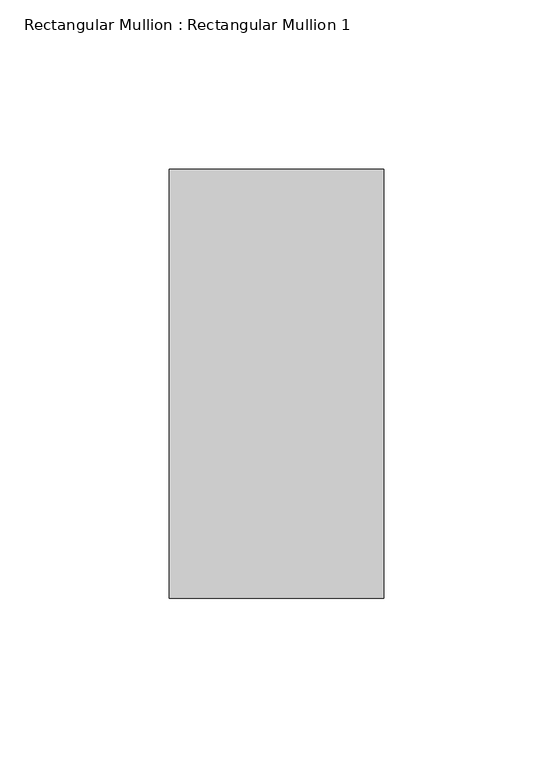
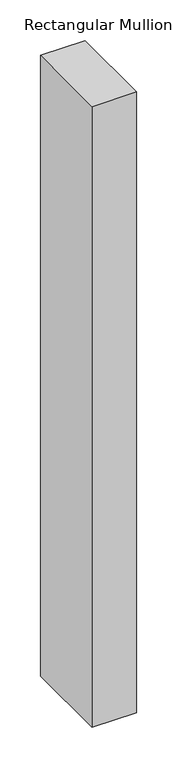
"""IFC4 building model written with IfcOpenShell, lengths in millimetres: member geometry, Rectangular Mullion : Rectangular Mullion 1."""

from ifc_helpers import new_model, si_unit, frame, origin, place, context, project, spatial, polyline, outline, extrude, source, transform, mapped, element, save


def rectangular_mullion_rectangular_mullion_1_27333ec5(model_context):
    return source(origin(), model_context, "Body", "SweptSolid", [
        extrude(outline(polyline([(0.0, 63.5), (0.0, -63.5), (-63.5, -63.5), (-63.5, 63.5), (0.0, 63.5)])), frame((0.0, 0.0, -934.5083333), z_axis=(0.0, 0.0, 1.0), x_axis=(1.0, 0.0, 0.0)), (0.0, 0.0, 1.0), 934.5083333),
    ])


if __name__ == "__main__":
    model = new_model("IFC4")
    model_context = context("Model", 3, world=origin())
    ifc_project = project(units=[si_unit("LENGTHUNIT", "METRE", prefix="MILLI")], contexts=[model_context])
    site = spatial("IfcSite", under=ifc_project)
    building = spatial("IfcBuilding", under=site)
    placement = place(None, origin())
    rectangular_mullion_rectangular_mullion_1_shape = rectangular_mullion_rectangular_mullion_1_27333ec5(model_context)
    element("IfcMember", 1, ObjectType="Rectangular Mullion : Rectangular Mullion 1", at=placement, inside=building, context=model_context, shape_type="MappedRepresentation", body=[
        mapped(rectangular_mullion_rectangular_mullion_1_shape, transform((0.0, 0.0, 0.0), x_axis=(1.0, 0.0, 0.0), y_axis=(0.0, 1.0, 0.0), z_axis=(0.0, 0.0, 1.0))),
    ])
    save(model, "model.ifc")
